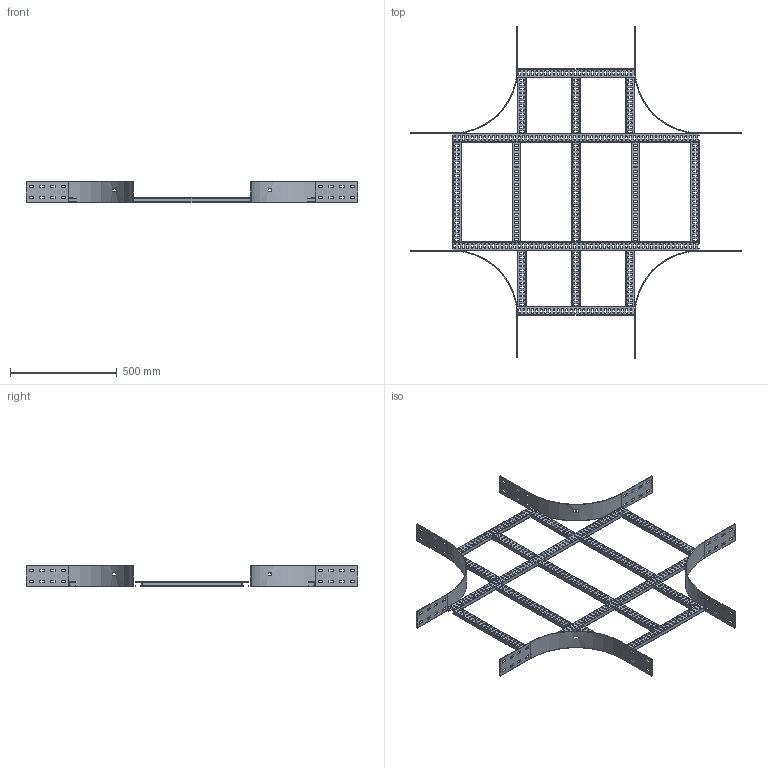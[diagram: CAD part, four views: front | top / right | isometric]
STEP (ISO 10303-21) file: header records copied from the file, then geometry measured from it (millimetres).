
FILE_DESCRIPTION(/* description */ ('','CAx-IF Rec.Pracs.---Representation and Presentation of Product Manufacturing Information (PMI)---4.0---2014-10-13'),/* implementation_level */ '2;1');
FILE_NAME(/* name */ 'Eurostrut_ECO100-500-300_Crossover for Cable Ladder ECL.step',/* time_stamp */ '2026-09-03T13:27:30+02:00',/* author */ (''),/* organization */ (''),/* preprocessor_version */ 'ST-DEVELOPER v20.1',/* originating_system */ 'Autodesk Revit 2027 27.2.0.39',/* authorisation */ '');
FILE_SCHEMA (('AP242_MANAGED_MODEL_BASED_3D_ENGINEERING_MIM_LF { 1 0 10303 442 2 1 4 }'));
Length unit declared in the file: millimetre
Products named in the file (10): TopLevelAssembly; Sweep; Sweep_1; Sweep_2; Sweep_3; Eurostrut_Cable Ladder_Rung_With slots; Eurostrut_Cable Ladder_Rung_With slots_1; Eurostrut_Cable Ladder_Rung Array Straight_Slotted; Eurostrut_Cable Ladder_Rung Array Straight_Slotted_1; Eurostrut_Cable Ladder_Accessory End_54-94-142
Assembly tree (19 placements, depth 2):
  TopLevelAssembly
    Sweep
    Sweep_1
    Eurostrut_Cable Ladder_Rung_With slots  x2
    Eurostrut_Cable Ladder_Rung_With slots_1  x2
    Sweep_2
    Sweep_3
    Eurostrut_Cable Ladder_Rung Array Straight_Slotted
    Eurostrut_Cable Ladder_Rung Array Straight_Slotted_1  x2
    Eurostrut_Cable Ladder_Accessory End_54-94-142  x8
Bounding box: 1552 x 1552 x 94 mm (x, y, z)
Volume: 1831687.9 mm3; surface area: 1914825.7 mm2
Topology: 27 solids, 27 shells, 2066 faces, 6036 edges, 4024 vertices
Faces by surface type: plane 1272, bspline 726, cylinder 68
Entity records: 55054 total; most frequent: CARTESIAN_POINT 21925, ORIENTED_EDGE 7104, DIRECTION 6150, EDGE_CURVE 3552, LINE 2484, VECTOR 2484, VERTEX_POINT 2368, AXIS2_PLACEMENT_3D 1833
